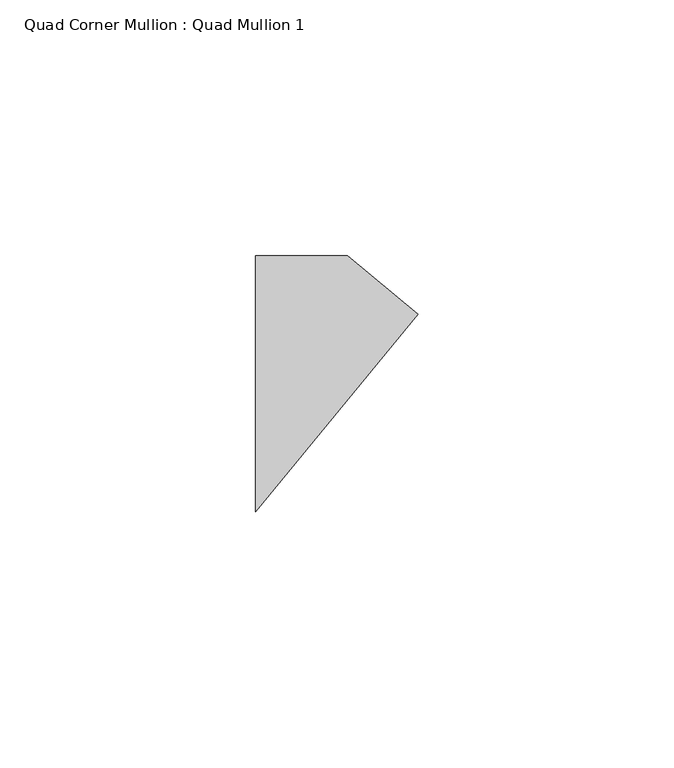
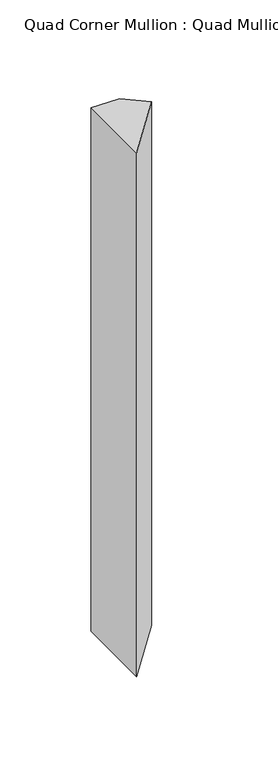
"""IFC4 building model written with IfcOpenShell, lengths in millimetres: member geometry, Quad Corner Mullion : Quad Mullion 1."""

import ifcopenshell
import ifcopenshell.guid

model = None  # the IFC model being written
_history = None  # IfcOwnerHistory: only IFC2X3 demands one
_inside = {}  # id of a spatial element -> (the spatial element, [elements in it])
_under = {}  # id of a project, library or spatial element -> (it, [spatial elements below it])
_declared = {}  # id of a project -> (the project, [libraries it declares])
_typed = {}  # id of a type object -> (the type object, [elements of that type])
_made_of = {}  # id of a material, layer set ... -> (it, [elements and type objects made of it])


def new_model(schema):
    """Start an empty IFC model of exactly this schema.

    Asked for "IFC4X3", IfcOpenShell would pick the latest addendum, in which some entities
    have other attributes; the version numbers below select the first issue.
    IFC2X3 requires an IfcOwnerHistory on every rooted entity: one is made here for all.
    """
    global model, _history
    if schema == "IFC4X3":
        model = ifcopenshell.file(schema_version=(4, 3, 0, 0))
    else:
        model = ifcopenshell.file(schema=schema)
    _inside.clear()
    _under.clear()
    _declared.clear()
    _typed.clear()
    _made_of.clear()
    _history = None
    if model.schema == "IFC2X3":
        org = make("IfcOrganization", Name="unknown")
        user = make(
            "IfcPersonAndOrganization",
            ThePerson=make("IfcPerson", FamilyName="unknown"),
            TheOrganization=org,
        )
        app = make(
            "IfcApplication",
            ApplicationDeveloper=org,
            Version="unknown",
            ApplicationFullName="unknown",
            ApplicationIdentifier="unknown",
        )
        _history = make(
            "IfcOwnerHistory",
            OwningUser=user,
            OwningApplication=app,
            ChangeAction="ADDED",
            CreationDate=0,
        )
    return model


def make(cls, **values):
    """One entity of the class cls with the attributes given. An attribute that is None is left unset."""
    return model.create_entity(
        cls, **{name: value for name, value in values.items() if value is not None}
    )


def rooted(cls, **values):
    """An entity with a GlobalId (a new one), such as an element, a storey or a relation."""
    return make(cls, GlobalId=ifcopenshell.guid.new(), OwnerHistory=_history, **values)


def si_unit(unit_type, name, prefix=None):
    """IfcSIUnit, for example si_unit("LENGTHUNIT", "METRE", prefix="MILLI")."""
    return make("IfcSIUnit", UnitType=unit_type, Prefix=prefix, Name=name)


def assignment(units):
    """IfcUnitAssignment: the units of a project."""
    return None if units is None else make("IfcUnitAssignment", Units=units)


def point(xyz):
    """IfcCartesianPoint."""
    return None if xyz is None else make("IfcCartesianPoint", Coordinates=xyz)


def direction(xyz):
    """IfcDirection."""
    return None if xyz is None else make("IfcDirection", DirectionRatios=xyz)


def frame(location, z_axis=None, x_axis=None):
    """IfcAxis2Placement3D, a coordinate frame: its origin and axes. An axis left out is left unset."""
    return make(
        "IfcAxis2Placement3D",
        Location=point(location),
        Axis=direction(z_axis),
        RefDirection=direction(x_axis),
    )


def origin():
    """The frame at (0, 0, 0) with its axes left unset."""
    return frame((0.0, 0.0, 0.0))


def place(relative_to, where):
    """IfcLocalPlacement: puts the frame where relative to a parent placement (None: the world)."""
    return make(
        "IfcLocalPlacement", PlacementRelTo=relative_to, RelativePlacement=where
    )


def context(
    kind, dimensions, precision=None, world=None, true_north=None, identifier=None
):
    """IfcGeometricRepresentationContext, for example the 3D "Model" context."""
    return make(
        "IfcGeometricRepresentationContext",
        ContextIdentifier=identifier,
        ContextType=kind,
        CoordinateSpaceDimension=dimensions,
        Precision=precision,
        WorldCoordinateSystem=world,
        TrueNorth=true_north,
    )


def project(units=None, contexts=None):
    """IfcProject with its units and contexts."""
    return rooted(
        "IfcProject",
        Name="project",
        RepresentationContexts=contexts,
        UnitsInContext=assignment(units),
    )


def spatial(cls, under=None, at=None, **own):
    """A site, building, storey or space (cls), placed at a placement, below another one or the project."""
    s = rooted(cls, ObjectPlacement=at, **own)
    if under is not None:
        _under.setdefault(under.id(), (under, []))[1].append(s)
    return s


def polyline(points):
    """IfcPolyline through the points."""
    return make("IfcPolyline", Points=[point(p) for p in points])


def outline(outer, holes=None, kind="AREA"):
    """IfcArbitraryClosedProfileDef: a profile drawn as a closed curve; with holes, ...WithVoids."""
    if holes is None:
        return make("IfcArbitraryClosedProfileDef", ProfileType=kind, OuterCurve=outer)
    return make(
        "IfcArbitraryProfileDefWithVoids",
        ProfileType=kind,
        OuterCurve=outer,
        InnerCurves=holes,
    )


def extrude(swept, where, along, depth):
    """IfcExtrudedAreaSolid: the profile swept, set in the frame where, extruded along a direction by depth."""
    return make(
        "IfcExtrudedAreaSolid",
        SweptArea=swept,
        Position=where,
        ExtrudedDirection=direction(along),
        Depth=depth,
    )


def shape(context_of_items, identifier, shape_type, items):
    """IfcShapeRepresentation: the items that make up one representation, for example the "Body"."""
    return make(
        "IfcShapeRepresentation",
        ContextOfItems=context_of_items,
        RepresentationIdentifier=identifier,
        RepresentationType=shape_type,
        Items=items,
    )


def source(mapping_origin, context_of_items, identifier, shape_type, items):
    """IfcRepresentationMap: a shape defined once, which mapped items show again and again."""
    return make(
        "IfcRepresentationMap",
        MappingOrigin=mapping_origin,
        MappedRepresentation=shape(context_of_items, identifier, shape_type, items),
    )


def transform(
    local_origin,
    x_axis=None,
    y_axis=None,
    z_axis=None,
    scale=None,
    scale2=None,
    scale3=None,
    uniform=True,
):
    """IfcCartesianTransformationOperator3D, or its non-uniform kind. x_axis, y_axis, z_axis: its Axis1, 2, 3."""
    if uniform:
        return make(
            "IfcCartesianTransformationOperator3D",
            Axis1=direction(x_axis),
            Axis2=direction(y_axis),
            LocalOrigin=point(local_origin),
            Scale=scale,
            Axis3=direction(z_axis),
        )
    return make(
        "IfcCartesianTransformationOperator3DnonUniform",
        Axis1=direction(x_axis),
        Axis2=direction(y_axis),
        LocalOrigin=point(local_origin),
        Scale=scale,
        Axis3=direction(z_axis),
        Scale2=scale2,
        Scale3=scale3,
    )


def mapped(mapping_source, mapping_target):
    """IfcMappedItem: shows the shape of a source again, moved by a transform."""
    return make(
        "IfcMappedItem", MappingSource=mapping_source, MappingTarget=mapping_target
    )


def made_of(thing, what):
    """Note that an element or type object is made of a material, layer set ...; save() writes the relation."""
    if what is not None:
        _made_of.setdefault(what.id(), (what, []))[1].append(thing)
    return thing


def element(
    cls,
    number,
    at=None,
    inside=None,
    cuts=None,
    type_object=None,
    material=None,
    context=None,
    identifier="Body",
    shape_type=None,
    held_by="IfcProductDefinitionShape",
    body=None,
    shapes=None,
    **own,
):
    """One element of the class cls, such as IfcWall. Its Tag is "e" and its number.

    at: its placement. inside: the storey or other place that contains it. cuts: it is an
    opening in that element (IfcRelVoidsElement). A single representation is given by context,
    identifier, shape_type and body (its items); several are given by shapes. held_by: the class
    of the entity that holds the representations. save() writes the other relations.
    """
    e = rooted(cls, Tag="e%d" % number, ObjectPlacement=at, **own)
    if body is not None:
        shapes = [shape(context, identifier, shape_type, body)]
    if shapes is not None:
        e.Representation = make(held_by, Representations=shapes)
    if inside is not None:
        _inside.setdefault(inside.id(), (inside, []))[1].append(e)
    if cuts is not None:
        rooted(
            "IfcRelVoidsElement", RelatingBuildingElement=cuts, RelatedOpeningElement=e
        )
    if type_object is not None:
        _typed.setdefault(type_object.id(), (type_object, []))[1].append(e)
    return made_of(e, material)


def aggregate(whole, parts):
    """IfcRelAggregates: a whole, such as a stair, and the parts it consists of."""
    return rooted("IfcRelAggregates", RelatingObject=whole, RelatedObjects=parts)


def save(model, path):
    """Write the relations noted so far, then the file.

    IfcRelAggregates (storeys below a building ...), IfcRelContainedInSpatialStructure (elements
    in a storey), IfcRelDefinesByType, IfcRelAssociatesMaterial and IfcRelDeclares: one each for
    every whole, place, type object, material and project.
    """
    for whole, parts in _under.values():
        aggregate(whole, parts)
    for where, things in _inside.values():
        rooted(
            "IfcRelContainedInSpatialStructure",
            RelatedElements=things,
            RelatingStructure=where,
        )
    for kind, things in _typed.values():
        rooted("IfcRelDefinesByType", RelatedObjects=things, RelatingType=kind)
    for what, things in _made_of.values():
        rooted("IfcRelAssociatesMaterial", RelatedObjects=things, RelatingMaterial=what)
    for by, libraries in _declared.values():
        rooted("IfcRelDeclares", RelatingContext=by, RelatedDefinitions=libraries)
    model.write(path)


def quad_corner_mullion_quad_mullion_1_63f19092(model_context):
    return source(origin(), model_context, "Body", "SweptSolid", [
        extrude(outline(polyline([(22.8068923, 13.6086231), (-8.963758, -25.0), (-8.963758, 25.0), (8.963758, 25.0), (22.8068923, 13.6086231)])), frame((0.0, 0.0, -350.0), z_axis=(0.0, 0.0, 1.0), x_axis=(1.0, 0.0, 0.0)), (0.0, 0.0, 1.0), 350.0),
    ])


if __name__ == "__main__":
    model = new_model("IFC4")
    model_context = context("Model", 3, world=origin())
    ifc_project = project(units=[si_unit("LENGTHUNIT", "METRE", prefix="MILLI")], contexts=[model_context])
    site = spatial("IfcSite", under=ifc_project)
    building = spatial("IfcBuilding", under=site)
    placement = place(None, origin())
    quad_corner_mullion_quad_mullion_1_shape = quad_corner_mullion_quad_mullion_1_63f19092(model_context)
    element("IfcMember", 1, ObjectType="Quad Corner Mullion : Quad Mullion 1", at=placement, inside=building, context=model_context, shape_type="MappedRepresentation", body=[
        mapped(quad_corner_mullion_quad_mullion_1_shape, transform((0.0, 0.0, 0.0), x_axis=(1.0, 0.0, 0.0), y_axis=(0.0, 1.0, 0.0), z_axis=(0.0, 0.0, 1.0))),
    ])
    save(model, "model.ifc")
